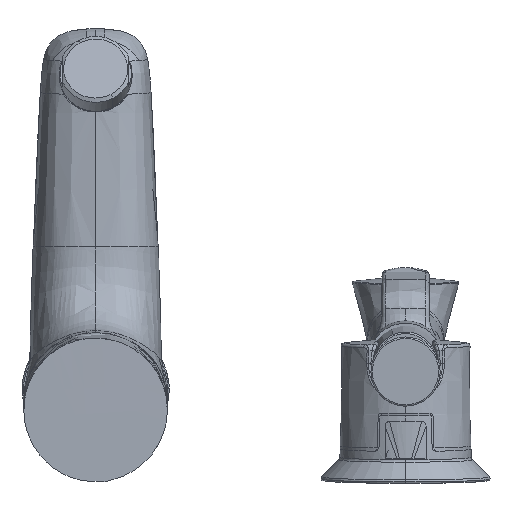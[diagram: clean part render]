
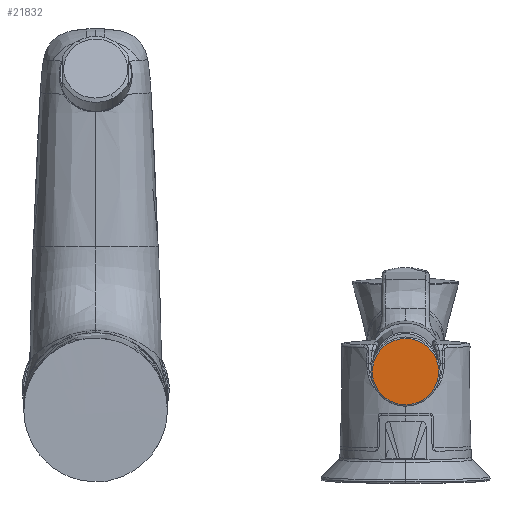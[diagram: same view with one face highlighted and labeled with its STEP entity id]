
A CAD part, front view. The second image highlights one B-rep face of the part: STEP entity #21832.
In plain terms, the highlighted planar face has unit normal (0, -0.999, -0.035).
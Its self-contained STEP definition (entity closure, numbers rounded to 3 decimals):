
#5218 = CIRCLE ( 'NONE', #17546, 11.128 ) ;
#5742 = CARTESIAN_POINT ( 'NONE',  ( 104.017, -110.315, 12.12 ) ) ;
#6869 = EDGE_LOOP ( 'NONE', ( #40546, #45012 ) ) ;
#7196 = CARTESIAN_POINT ( 'NONE',  ( 107.956, -109.952, 1.72 ) ) ;
#9005 = EDGE_CURVE ( 'NONE', #31747, #10977, #5218, .T. ) ;
#10346 = EDGE_CURVE ( 'NONE', #10977, #31747, #36034, .T. ) ;
#10922 = DIRECTION ( 'NONE',  ( 0., -0.999, -0.035 ) ) ;
#10977 = VERTEX_POINT ( 'NONE', #35570 ) ;
#15446 = DIRECTION ( 'NONE',  ( -0.354, -0.033, 0.935 ) ) ;
#17546 = AXIS2_PLACEMENT_3D ( 'NONE', #38325, #38153, #15446 ) ;
#21832 = ADVANCED_FACE ( 'NONE', ( #45490 ), #40602, .T. ) ;
#23936 = AXIS2_PLACEMENT_3D ( 'NONE', #5742, #40034, #32573 ) ;
#28761 = AXIS2_PLACEMENT_3D ( 'NONE', #48725, #10922, #37452 ) ;
#31747 = VERTEX_POINT ( 'NONE', #7196 ) ;
#32573 = DIRECTION ( 'NONE',  ( -0.354, -0.033, 0.935 ) ) ;
#35570 = CARTESIAN_POINT ( 'NONE',  ( 100.077, -110.678, 22.521 ) ) ;
#36034 = CIRCLE ( 'NONE', #23936, 11.128 ) ;
#37452 = DIRECTION ( 'NONE',  ( -0.354, -0.033, 0.935 ) ) ;
#38153 = DIRECTION ( 'NONE',  ( 0., 0.999, 0.035 ) ) ;
#38325 = CARTESIAN_POINT ( 'NONE',  ( 104.017, -110.315, 12.12 ) ) ;
#40034 = DIRECTION ( 'NONE',  ( 0., 0.999, 0.035 ) ) ;
#40546 = ORIENTED_EDGE ( 'NONE', *, *, #10346, .F. ) ;
#40602 = PLANE ( 'NONE',  #28761 ) ;
#45012 = ORIENTED_EDGE ( 'NONE', *, *, #9005, .F. ) ;
#45490 = FACE_OUTER_BOUND ( 'NONE', #6869, .T. ) ;
#48725 = CARTESIAN_POINT ( 'NONE',  ( 108.141, -109.935, 1.232 ) ) ;
